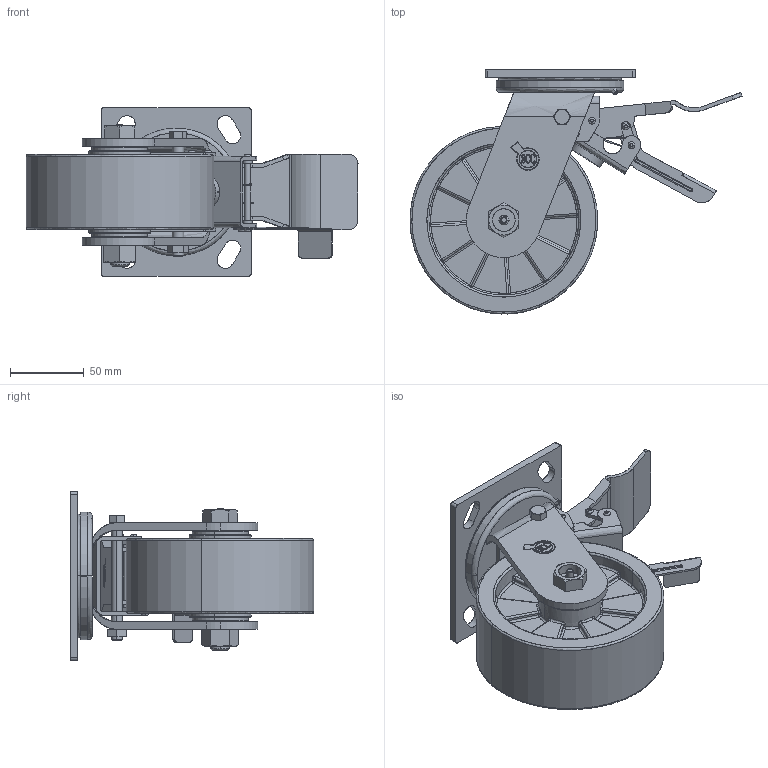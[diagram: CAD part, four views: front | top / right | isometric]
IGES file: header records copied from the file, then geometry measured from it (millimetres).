
Start section: SolidWorks IGES file using analytic representation for surfaces
Global section: file name: \\192.168.10.19\Nimesh\Inquiry\Tyler Manz\Output\2021-09-01\5'' Swivel Caster with Total Lock - Glass Filled Nylon\SCC-TTL30S520-GFNR 3D IGES.IGS; native system: SolidWorks 2016; preprocessor: SolidWorks 2016; author: rahul.sarma; date: 220129.143317; units: inch
Bounding box: 224.7 x 165.08 x 114.3 mm (x, y, z)
Surface area: 258114.1 mm2 (no closed solid volume)
Topology: 0 solids, 0 shells, 1544 faces, 22670 edges, 22580 vertices
Faces by surface type: bspline 968, revolution 576
